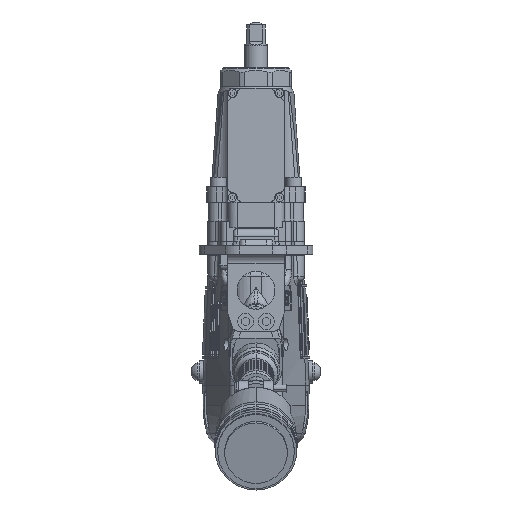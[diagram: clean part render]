
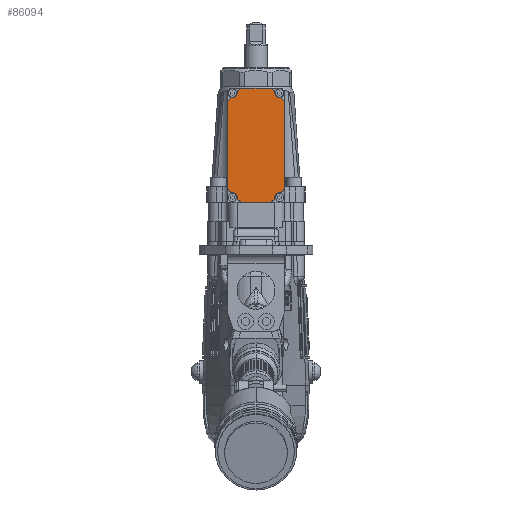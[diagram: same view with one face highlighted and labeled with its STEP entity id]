
A CAD part, front view. The second image highlights one B-rep face of the part: STEP entity #86094.
In plain terms, the highlighted planar face has unit normal (0, -1, 0).
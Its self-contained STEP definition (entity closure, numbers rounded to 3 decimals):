
#85094 = VERTEX_POINT ( 'NONE', #103626 ) ;
#85115 = EDGE_CURVE ( 'NONE', #85117, #85119, #103593, .T. ) ;
#85117 = VERTEX_POINT ( 'NONE', #103587 ) ;
#85119 = VERTEX_POINT ( 'NONE', #103585 ) ;
#85152 = VERTEX_POINT ( 'NONE', #103653 ) ;
#85156 = EDGE_CURVE ( 'NONE', #85152, #85094, #103651, .T. ) ;
#85173 = VERTEX_POINT ( 'NONE', #103734 ) ;
#85177 = EDGE_CURVE ( 'NONE', #85173, #85180, #103732, .T. ) ;
#85180 = VERTEX_POINT ( 'NONE', #103726 ) ;
#85324 = VERTEX_POINT ( 'NONE', #103977 ) ;
#85328 = EDGE_CURVE ( 'NONE', #85324, #85330, #103972, .T. ) ;
#85330 = VERTEX_POINT ( 'NONE', #103966 ) ;
#86094 = ADVANCED_FACE ( 'NONE', ( #107489 ), #107480, .F. ) ;
#86097 = EDGE_LOOP ( 'NONE', ( #86221, #86223, #86230, #86236, #86240, #86241, #86247, #86199, #86203, #86205, #86211, #86217, #86344, #86346, #86173, #86179 ) ) ;
#86171 = VERTEX_POINT ( 'NONE', #109616 ) ;
#86173 = ORIENTED_EDGE ( 'NONE', *, *, #86175, .F. ) ;
#86175 = EDGE_CURVE ( 'NONE', #86177, #86171, #109609, .T. ) ;
#86177 = VERTEX_POINT ( 'NONE', #109601 ) ;
#86179 = ORIENTED_EDGE ( 'NONE', *, *, #86181, .F. ) ;
#86181 = EDGE_CURVE ( 'NONE', #85180, #86177, #109595, .T. ) ;
#86194 = EDGE_CURVE ( 'NONE', #86197, #86245, #109712, .T. ) ;
#86197 = VERTEX_POINT ( 'NONE', #109704 ) ;
#86199 = ORIENTED_EDGE ( 'NONE', *, *, #86201, .F. ) ;
#86201 = EDGE_CURVE ( 'NONE', #85330, #86197, #109698, .T. ) ;
#86203 = ORIENTED_EDGE ( 'NONE', *, *, #85328, .F. ) ;
#86205 = ORIENTED_EDGE ( 'NONE', *, *, #86207, .F. ) ;
#86207 = EDGE_CURVE ( 'NONE', #86209, #85324, #109687, .T. ) ;
#86209 = VERTEX_POINT ( 'NONE', #109678 ) ;
#86211 = ORIENTED_EDGE ( 'NONE', *, *, #86213, .F. ) ;
#86213 = EDGE_CURVE ( 'NONE', #86215, #86209, #109672, .T. ) ;
#86215 = VERTEX_POINT ( 'NONE', #109664 ) ;
#86217 = ORIENTED_EDGE ( 'NONE', *, *, #86219, .F. ) ;
#86219 = EDGE_CURVE ( 'NONE', #85094, #86215, #109804, .T. ) ;
#86221 = ORIENTED_EDGE ( 'NONE', *, *, #85177, .F. ) ;
#86223 = ORIENTED_EDGE ( 'NONE', *, *, #86225, .F. ) ;
#86225 = EDGE_CURVE ( 'NONE', #86228, #85173, #109794, .T. ) ;
#86228 = VERTEX_POINT ( 'NONE', #109785 ) ;
#86230 = ORIENTED_EDGE ( 'NONE', *, *, #86232, .F. ) ;
#86232 = EDGE_CURVE ( 'NONE', #86234, #86228, #109780, .T. ) ;
#86234 = VERTEX_POINT ( 'NONE', #109772 ) ;
#86236 = ORIENTED_EDGE ( 'NONE', *, *, #86238, .F. ) ;
#86238 = EDGE_CURVE ( 'NONE', #85119, #86234, #109767, .T. ) ;
#86240 = ORIENTED_EDGE ( 'NONE', *, *, #85115, .F. ) ;
#86241 = ORIENTED_EDGE ( 'NONE', *, *, #86243, .F. ) ;
#86243 = EDGE_CURVE ( 'NONE', #86245, #85117, #109755, .T. ) ;
#86245 = VERTEX_POINT ( 'NONE', #109747 ) ;
#86247 = ORIENTED_EDGE ( 'NONE', *, *, #86194, .F. ) ;
#86344 = ORIENTED_EDGE ( 'NONE', *, *, #85156, .F. ) ;
#86346 = ORIENTED_EDGE ( 'NONE', *, *, #86348, .F. ) ;
#86348 = EDGE_CURVE ( 'NONE', #86171, #85152, #109914, .T. ) ;
#103585 = CARTESIAN_POINT ( 'NONE',  ( 93., -30.6, -7.023 ) ) ;
#103587 = CARTESIAN_POINT ( 'NONE',  ( 93., -30.6, 7.023 ) ) ;
#103588 = DIRECTION ( 'NONE',  ( 0., 0., -1. ) ) ;
#103589 = VECTOR ( 'NONE', #103588, 1000. ) ;
#103591 = CARTESIAN_POINT ( 'NONE',  ( 93., -30.6, -15. ) ) ;
#103593 = LINE ( 'NONE', #103591, #103589 ) ;
#103626 = CARTESIAN_POINT ( 'NONE',  ( 33., -30.6, 7.023 ) ) ;
#103647 = DIRECTION ( 'NONE',  ( 0., 0., 1. ) ) ;
#103649 = VECTOR ( 'NONE', #103647, 1000. ) ;
#103650 = CARTESIAN_POINT ( 'NONE',  ( 33., -30.6, -15. ) ) ;
#103651 = LINE ( 'NONE', #103650, #103649 ) ;
#103653 = CARTESIAN_POINT ( 'NONE',  ( 33., -30.6, -7.023 ) ) ;
#103726 = CARTESIAN_POINT ( 'NONE',  ( 40.977, -30.6, -15. ) ) ;
#103729 = DIRECTION ( 'NONE',  ( -1., 0., 0. ) ) ;
#103730 = VECTOR ( 'NONE', #103729, 1000. ) ;
#103731 = CARTESIAN_POINT ( 'NONE',  ( 33., -30.6, -15. ) ) ;
#103732 = LINE ( 'NONE', #103731, #103730 ) ;
#103734 = CARTESIAN_POINT ( 'NONE',  ( 85.023, -30.6, -15. ) ) ;
#103966 = CARTESIAN_POINT ( 'NONE',  ( 85.023, -30.6, 15. ) ) ;
#103968 = DIRECTION ( 'NONE',  ( 1., 0., 0. ) ) ;
#103970 = VECTOR ( 'NONE', #103968, 1000. ) ;
#103971 = CARTESIAN_POINT ( 'NONE',  ( 33., -30.6, 15. ) ) ;
#103972 = LINE ( 'NONE', #103971, #103970 ) ;
#103977 = CARTESIAN_POINT ( 'NONE',  ( 40.977, -30.6, 15. ) ) ;
#107480 = PLANE ( 'NONE',  #107587 ) ;
#107489 = FACE_OUTER_BOUND ( 'NONE', #86097, .T. ) ;
#107584 = DIRECTION ( 'NONE',  ( 0., 0., 1. ) ) ;
#107585 = DIRECTION ( 'NONE',  ( 0., 1., 0. ) ) ;
#107586 = CARTESIAN_POINT ( 'NONE',  ( 33., -30.6, 15. ) ) ;
#107587 = AXIS2_PLACEMENT_3D ( 'NONE', #107586, #107585, #107584 ) ;
#109588 = DIRECTION ( 'NONE',  ( 0., 0., -1. ) ) ;
#109590 = DIRECTION ( 'NONE',  ( 0., 1., 0. ) ) ;
#109592 = CARTESIAN_POINT ( 'NONE',  ( 40.977, -30.6, -12. ) ) ;
#109593 = AXIS2_PLACEMENT_3D ( 'NONE', #109592, #109590, #109588 ) ;
#109595 = CIRCLE ( 'NONE', #109593, 3. ) ;
#109601 = CARTESIAN_POINT ( 'NONE',  ( 37.99, -30.6, -12.273 ) ) ;
#109604 = DIRECTION ( 'NONE',  ( 0., 0., -1. ) ) ;
#109605 = DIRECTION ( 'NONE',  ( 0., -1., 0. ) ) ;
#109606 = CARTESIAN_POINT ( 'NONE',  ( 35.5, -30.6, -12.5 ) ) ;
#109608 = AXIS2_PLACEMENT_3D ( 'NONE', #109606, #109605, #109604 ) ;
#109609 = CIRCLE ( 'NONE', #109608, 2.5 ) ;
#109616 = CARTESIAN_POINT ( 'NONE',  ( 35.727, -30.6, -10.01 ) ) ;
#109664 = CARTESIAN_POINT ( 'NONE',  ( 35.727, -30.6, 10.01 ) ) ;
#109666 = DIRECTION ( 'NONE',  ( 0., 0., -1. ) ) ;
#109668 = DIRECTION ( 'NONE',  ( 0., -1., 0. ) ) ;
#109669 = CARTESIAN_POINT ( 'NONE',  ( 35.5, -30.6, 12.5 ) ) ;
#109670 = AXIS2_PLACEMENT_3D ( 'NONE', #109669, #109668, #109666 ) ;
#109672 = CIRCLE ( 'NONE', #109670, 2.5 ) ;
#109678 = CARTESIAN_POINT ( 'NONE',  ( 37.99, -30.6, 12.273 ) ) ;
#109681 = DIRECTION ( 'NONE',  ( 0., 0., -1. ) ) ;
#109683 = DIRECTION ( 'NONE',  ( 0., 1., 0. ) ) ;
#109684 = CARTESIAN_POINT ( 'NONE',  ( 40.977, -30.6, 12. ) ) ;
#109685 = AXIS2_PLACEMENT_3D ( 'NONE', #109684, #109683, #109681 ) ;
#109687 = CIRCLE ( 'NONE', #109685, 3. ) ;
#109691 = DIRECTION ( 'NONE',  ( 0., 0., -1. ) ) ;
#109693 = DIRECTION ( 'NONE',  ( 0., 1., 0. ) ) ;
#109695 = CARTESIAN_POINT ( 'NONE',  ( 85.023, -30.6, 12. ) ) ;
#109697 = AXIS2_PLACEMENT_3D ( 'NONE', #109695, #109693, #109691 ) ;
#109698 = CIRCLE ( 'NONE', #109697, 3. ) ;
#109704 = CARTESIAN_POINT ( 'NONE',  ( 88.01, -30.6, 12.273 ) ) ;
#109705 = DIRECTION ( 'NONE',  ( 0., 0., -1. ) ) ;
#109707 = DIRECTION ( 'NONE',  ( 0., -1., 0. ) ) ;
#109709 = CARTESIAN_POINT ( 'NONE',  ( 90.5, -30.6, 12.5 ) ) ;
#109710 = AXIS2_PLACEMENT_3D ( 'NONE', #109709, #109707, #109705 ) ;
#109712 = CIRCLE ( 'NONE', #109710, 2.5 ) ;
#109747 = CARTESIAN_POINT ( 'NONE',  ( 90.273, -30.6, 10.01 ) ) ;
#109749 = DIRECTION ( 'NONE',  ( 0., 0., -1. ) ) ;
#109751 = DIRECTION ( 'NONE',  ( 0., 1., 0. ) ) ;
#109752 = CARTESIAN_POINT ( 'NONE',  ( 90., -30.6, 7.023 ) ) ;
#109753 = AXIS2_PLACEMENT_3D ( 'NONE', #109752, #109751, #109749 ) ;
#109755 = CIRCLE ( 'NONE', #109753, 3. ) ;
#109760 = DIRECTION ( 'NONE',  ( 0., 0., -1. ) ) ;
#109762 = DIRECTION ( 'NONE',  ( 0., 1., 0. ) ) ;
#109764 = CARTESIAN_POINT ( 'NONE',  ( 90., -30.6, -7.023 ) ) ;
#109765 = AXIS2_PLACEMENT_3D ( 'NONE', #109764, #109762, #109760 ) ;
#109767 = CIRCLE ( 'NONE', #109765, 3. ) ;
#109772 = CARTESIAN_POINT ( 'NONE',  ( 90.273, -30.6, -10.01 ) ) ;
#109773 = DIRECTION ( 'NONE',  ( 0., 0., -1. ) ) ;
#109775 = DIRECTION ( 'NONE',  ( 0., -1., 0. ) ) ;
#109777 = CARTESIAN_POINT ( 'NONE',  ( 90.5, -30.6, -12.5 ) ) ;
#109778 = AXIS2_PLACEMENT_3D ( 'NONE', #109777, #109775, #109773 ) ;
#109780 = CIRCLE ( 'NONE', #109778, 2.5 ) ;
#109785 = CARTESIAN_POINT ( 'NONE',  ( 88.01, -30.6, -12.273 ) ) ;
#109787 = DIRECTION ( 'NONE',  ( 0., 0., -1. ) ) ;
#109789 = DIRECTION ( 'NONE',  ( 0., 1., 0. ) ) ;
#109790 = CARTESIAN_POINT ( 'NONE',  ( 85.023, -30.6, -12. ) ) ;
#109792 = AXIS2_PLACEMENT_3D ( 'NONE', #109790, #109789, #109787 ) ;
#109794 = CIRCLE ( 'NONE', #109792, 3. ) ;
#109799 = DIRECTION ( 'NONE',  ( 0., 0., -1. ) ) ;
#109800 = DIRECTION ( 'NONE',  ( 0., 1., 0. ) ) ;
#109802 = CARTESIAN_POINT ( 'NONE',  ( 36., -30.6, 7.023 ) ) ;
#109803 = AXIS2_PLACEMENT_3D ( 'NONE', #109802, #109800, #109799 ) ;
#109804 = CIRCLE ( 'NONE', #109803, 3. ) ;
#109910 = DIRECTION ( 'NONE',  ( 0., 0., -1. ) ) ;
#109912 = DIRECTION ( 'NONE',  ( 0., 1., 0. ) ) ;
#109913 = AXIS2_PLACEMENT_3D ( 'NONE', #109929, #109912, #109910 ) ;
#109914 = CIRCLE ( 'NONE', #109913, 3. ) ;
#109929 = CARTESIAN_POINT ( 'NONE',  ( 36., -30.6, -7.023 ) ) ;
